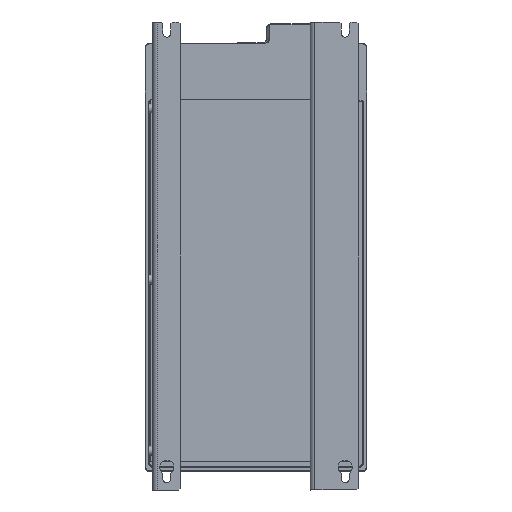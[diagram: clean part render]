
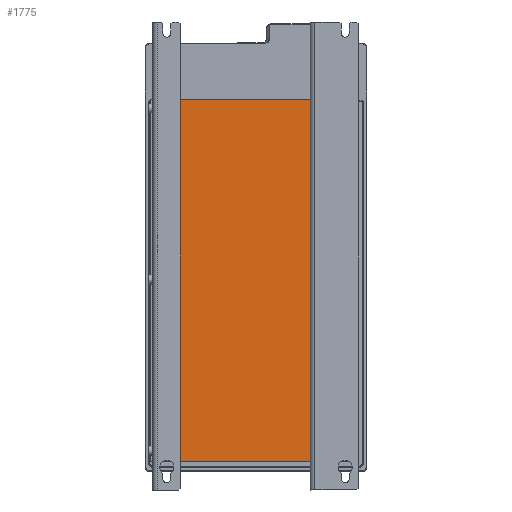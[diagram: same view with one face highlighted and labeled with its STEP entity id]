
A CAD part, front view. The second image highlights one B-rep face of the part: STEP entity #1775.
In plain terms, the highlighted planar face has unit normal (0, -1, 0).
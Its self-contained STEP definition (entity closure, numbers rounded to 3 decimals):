
#467 = CARTESIAN_POINT ( 'NONE',  ( -91.5, -15.5, 231.5 ) ) ;
#1398 = EDGE_LOOP ( 'NONE', ( #51403, #1786, #78597, #78190 ) ) ;
#1775 = ADVANCED_FACE ( 'NONE', ( #39943 ), #71641, .F. ) ;
#1786 = ORIENTED_EDGE ( 'NONE', *, *, #31178, .T. ) ;
#2756 = CARTESIAN_POINT ( 'NONE',  ( -91.5, -15.5, 231.5 ) ) ;
#5121 = VECTOR ( 'NONE', #26624, 1000. ) ;
#10047 = CARTESIAN_POINT ( 'NONE',  ( -87.5, -15.5, 231.5 ) ) ;
#16464 = VERTEX_POINT ( 'NONE', #10047 ) ;
#16545 = DIRECTION ( 'NONE',  ( 0., 1., 0. ) ) ;
#17054 = DIRECTION ( 'NONE',  ( 0., 0., 1. ) ) ;
#25536 = CARTESIAN_POINT ( 'NONE',  ( -91.5, -15.5, -173.5 ) ) ;
#26624 = DIRECTION ( 'NONE',  ( 1., 0., 0. ) ) ;
#30620 = EDGE_CURVE ( 'NONE', #82577, #16464, #65397, .T. ) ;
#31178 = EDGE_CURVE ( 'NONE', #82577, #92027, #34824, .T. ) ;
#34824 = LINE ( 'NONE', #25536, #70081 ) ;
#35393 = EDGE_CURVE ( 'NONE', #39680, #92027, #98760, .T. ) ;
#39680 = VERTEX_POINT ( 'NONE', #69546 ) ;
#39943 = FACE_OUTER_BOUND ( 'NONE', #1398, .T. ) ;
#43214 = VECTOR ( 'NONE', #66572, 1000. ) ;
#46195 = LINE ( 'NONE', #2756, #5121 ) ;
#47841 = AXIS2_PLACEMENT_3D ( 'NONE', #467, #16545, #17054 ) ;
#51403 = ORIENTED_EDGE ( 'NONE', *, *, #30620, .F. ) ;
#63173 = CARTESIAN_POINT ( 'NONE',  ( -87.5, -15.5, -173.5 ) ) ;
#65397 = LINE ( 'NONE', #73690, #96503 ) ;
#66572 = DIRECTION ( 'NONE',  ( 0., 0., -1. ) ) ;
#69546 = CARTESIAN_POINT ( 'NONE',  ( 87.5, -15.5, 231.5 ) ) ;
#70057 = EDGE_CURVE ( 'NONE', #16464, #39680, #46195, .T. ) ;
#70081 = VECTOR ( 'NONE', #88899, 1000. ) ;
#71641 = PLANE ( 'NONE',  #47841 ) ;
#73690 = CARTESIAN_POINT ( 'NONE',  ( -87.5, -15.5, 230.3 ) ) ;
#78190 = ORIENTED_EDGE ( 'NONE', *, *, #70057, .F. ) ;
#78597 = ORIENTED_EDGE ( 'NONE', *, *, #35393, .F. ) ;
#82577 = VERTEX_POINT ( 'NONE', #63173 ) ;
#88899 = DIRECTION ( 'NONE',  ( 1., 0., 0. ) ) ;
#92027 = VERTEX_POINT ( 'NONE', #97401 ) ;
#96503 = VECTOR ( 'NONE', #97040, 1000. ) ;
#97040 = DIRECTION ( 'NONE',  ( 0., 0., 1. ) ) ;
#97401 = CARTESIAN_POINT ( 'NONE',  ( 87.5, -15.5, -173.5 ) ) ;
#97707 = CARTESIAN_POINT ( 'NONE',  ( 87.5, -15.5, -192. ) ) ;
#98760 = LINE ( 'NONE', #97707, #43214 ) ;
